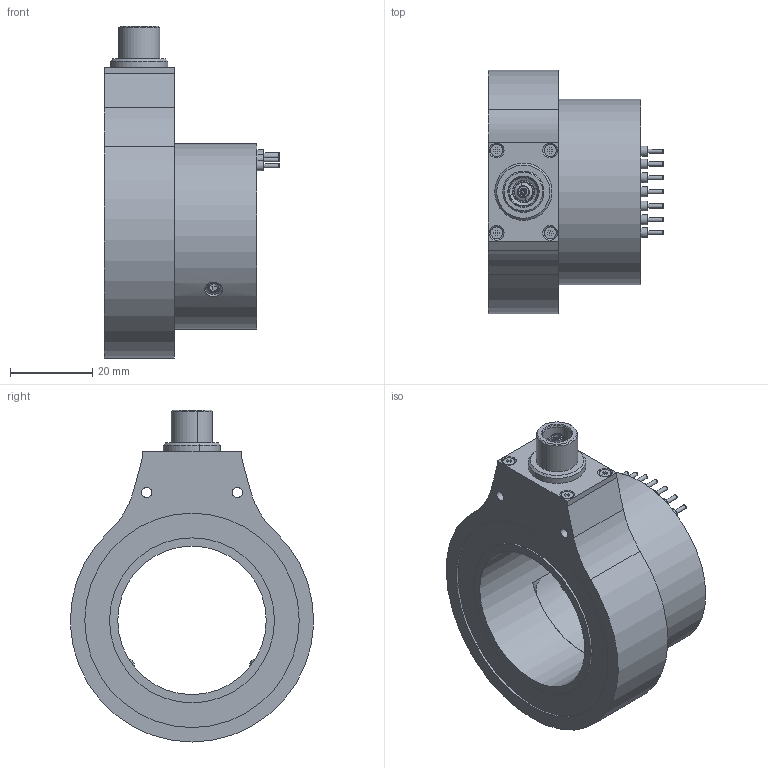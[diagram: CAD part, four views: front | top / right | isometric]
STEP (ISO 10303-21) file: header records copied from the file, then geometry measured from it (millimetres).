
FILE_DESCRIPTION(/* description */ (''),/* implementation_level */ '2;1');
FILE_NAME(/* name */ '\\nt01\DatenF\daten\PRODUKTE\TELEMETR\SV\Mechanik\CAD\2La\D36\D36\kunde\GWUE_G_D36.stp',/* time_stamp */ '2019-09-02T15:16:17+02:00',/* author */ ('dschaefer'),/* organization */ (''),/* preprocessor_version */ 'ST-DEVELOPER v16.5',/* originating_system */ 'Autodesk Inventor 2017',/* authorisation */ '');
FILE_SCHEMA (('AUTOMOTIVE_DESIGN { 1 0 10303 214 3 1 1 }'));
Length unit declared in the file: millimetre
Products named in the file (1): GWUE_G_D36
Bounding box: 42.5 x 58.97 x 80.5 mm (x, y, z)
Volume: 44217.6 mm3; surface area: 19274.6 mm2
Topology: 2 solids, 16 shells, 489 faces, 1164 edges, 741 vertices
Faces by surface type: cylinder 180, plane 167, cone 75, torus 58, bspline 9
Full cylindrical faces by diameter (mm): 1 x7, 1.3 x1, 1.567 x4, 1.8 x4, 2.2 x4, 2.4 x9, 2.459 x2, 2.9 x4, 3.242 x2, 4 x1, 4.3 x2, 10 x1, 36 x1, 40 x1, 45 x1, 52 x1
Entity records: 18337 total; most frequent: CARTESIAN_POINT 7284, DIRECTION 2340, ORIENTED_EDGE 2082, EDGE_CURVE 1033, AXIS2_PLACEMENT_3D 944, VERTEX_POINT 691, EDGE_LOOP 638, FACE_OUTER_BOUND 489
